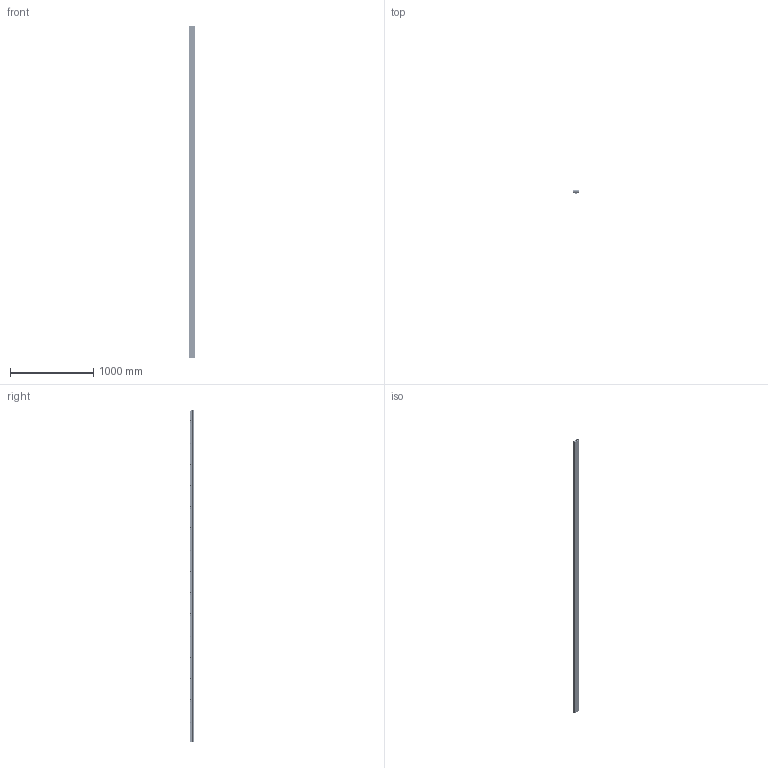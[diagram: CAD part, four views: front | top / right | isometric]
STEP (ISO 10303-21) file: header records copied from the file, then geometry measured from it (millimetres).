
FILE_DESCRIPTION (( 'STEP AP203' ), '1' );
FILE_NAME ('015.200.014.STEP', '2022-12-15T07:41:33', ( '' ), ( '' ), 'SwSTEP 2.0', 'SolidWorks 2021', '' );
FILE_SCHEMA (( 'CONFIG_CONTROL_DESIGN' ));
Length unit declared in the file: millimetre
Products named in the file (5): 015.200.014_2_100<A macchina>; 015.200.014_4; 015.200.014; 015.200.014_3; 015.200.014_1
Assembly tree (178 placements, depth 3):
  015.200.014
    015.200.014_2_100<A macchina>
    015.200.014_4  x173
      015.200.014_3
      015.200.014_1
Bounding box: 80 x 45.5 x 3996 mm (x, y, z)
Volume: 3943032.9 mm3; surface area: 3633282.4 mm2
Topology: 693 solids, 693 shells, 52020 faces, 126990 edges, 83968 vertices
Faces by surface type: plane 28746, cylinder 21198, cone 2076
Entity records: 185853 total; most frequent: ORIENTED_EDGE 32284, CARTESIAN_POINT 31796, DIRECTION 31730, EDGE_CURVE 16142, VERTEX_POINT 10760, AXIS2_PLACEMENT_3D 10694, VECTOR 10342, LINE 10342
